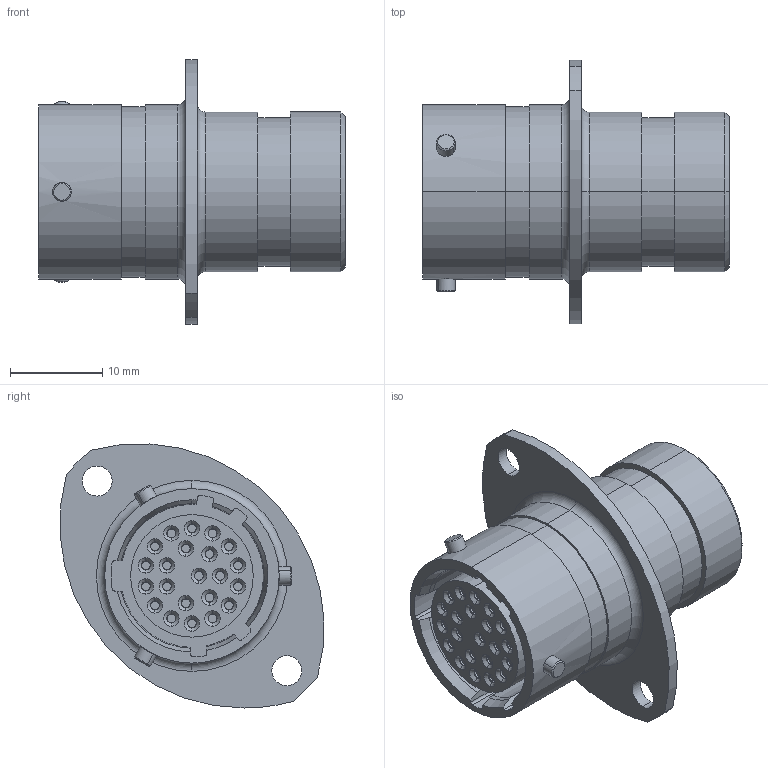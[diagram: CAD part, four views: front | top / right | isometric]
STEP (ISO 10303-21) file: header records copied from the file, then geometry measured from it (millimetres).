
FILE_DESCRIPTION (( 'STEP AP203' ), '1' );
FILE_NAME ('CVM_AS012-35SX.STEP', '2026-06-09T10:18:09', ( '' ), ( '' ), 'SwSTEP 2.0', 'SolidWorks 2022', '' );
FILE_SCHEMA (( 'CONFIG_CONTROL_DESIGN' ));
Length unit declared in the file: inch
Products named in the file (1): CVM_AS012-35SX
Bounding box: 33.31 x 28.61 x 28.66 mm (x, y, z)
Volume: 7466.5 mm3; surface area: 5146.8 mm2
Topology: 1 solids, 1 shells, 509 faces, 1061 edges, 610 vertices
Faces by surface type: cylinder 188, torus 146, cone 102, plane 73
Entity records: 13760 total; most frequent: DIRECTION 2775, CARTESIAN_POINT 2347, ORIENTED_EDGE 2122, AXIS2_PLACEMENT_3D 1230, EDGE_CURVE 1061, CIRCLE 720, VERTEX_POINT 610, EDGE_LOOP 569
